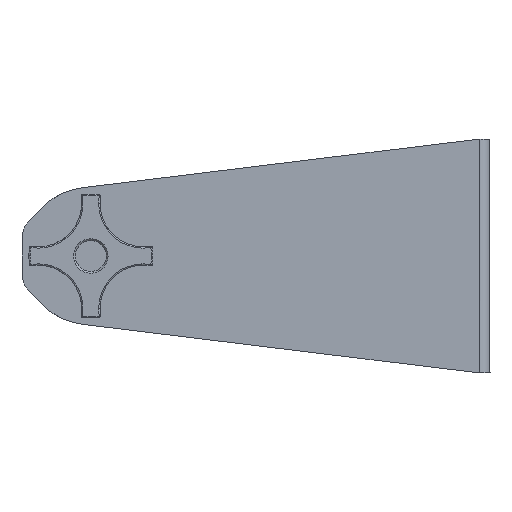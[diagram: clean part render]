
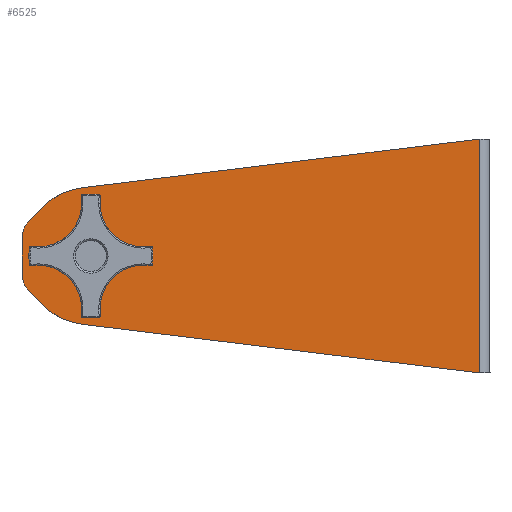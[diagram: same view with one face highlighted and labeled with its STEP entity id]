
A CAD part, left-side view. The second image highlights one B-rep face of the part: STEP entity #6525.
In plain terms, the highlighted planar face has unit normal (-1, 0, 0).
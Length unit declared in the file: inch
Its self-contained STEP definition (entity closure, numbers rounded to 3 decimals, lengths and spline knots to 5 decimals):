
#47 = VECTOR ( 'NONE', #1103, 39.37008 ) ;
#107 = AXIS2_PLACEMENT_3D ( 'NONE', #8453, #3495, #3270 ) ;
#119 = ORIENTED_EDGE ( 'NONE', *, *, #2059, .F. ) ;
#295 = DIRECTION ( 'NONE',  ( 1., 0., 0. ) ) ;
#310 = CARTESIAN_POINT ( 'NONE',  ( -10.875, 0.196, 2.12402 ) ) ;
#338 = VERTEX_POINT ( 'NONE', #3378 ) ;
#541 = EDGE_CURVE ( 'NONE', #1523, #9267, #5431, .T. ) ;
#583 = CARTESIAN_POINT ( 'NONE',  ( -10.875, 8.13521, 0.88255 ) ) ;
#696 = VERTEX_POINT ( 'NONE', #8216 ) ;
#704 = ORIENTED_EDGE ( 'NONE', *, *, #6803, .F. ) ;
#907 = LINE ( 'NONE', #3299, #3286 ) ;
#988 = CIRCLE ( 'NONE', #9332, 0.5 ) ;
#1027 = AXIS2_PLACEMENT_3D ( 'NONE', #1418, #8823, #5524 ) ;
#1103 = DIRECTION ( 'NONE',  ( 0., 0., 1. ) ) ;
#1382 = EDGE_CURVE ( 'NONE', #696, #5650, #2198, .T. ) ;
#1386 = CARTESIAN_POINT ( 'NONE',  ( -10.875, 8.35408, 0.66302 ) ) ;
#1418 = CARTESIAN_POINT ( 'NONE',  ( -10.875, 7.25, 0. ) ) ;
#1451 = ORIENTED_EDGE ( 'NONE', *, *, #10365, .F. ) ;
#1523 = VERTEX_POINT ( 'NONE', #9722 ) ;
#1607 = DIRECTION ( 'NONE',  ( 1., 0., 0. ) ) ;
#1620 = ORIENTED_EDGE ( 'NONE', *, *, #10405, .F. ) ;
#1994 = ORIENTED_EDGE ( 'NONE', *, *, #4037, .F. ) ;
#2012 = DIRECTION ( 'NONE',  ( 0., -1., 0. ) ) ;
#2015 = VERTEX_POINT ( 'NONE', #583 ) ;
#2038 = EDGE_CURVE ( 'NONE', #1523, #4041, #10212, .T. ) ;
#2059 = EDGE_CURVE ( 'NONE', #4026, #10580, #907, .T. ) ;
#2131 = CARTESIAN_POINT ( 'NONE',  ( -10.875, 8.35408, -0.66302 ) ) ;
#2198 = CIRCLE ( 'NONE', #10950, 0.1955 ) ;
#2687 = CARTESIAN_POINT ( 'NONE',  ( -10.875, 7.25, 0. ) ) ;
#2813 = DIRECTION ( 'NONE',  ( 1., 0., 0. ) ) ;
#2880 = ORIENTED_EDGE ( 'NONE', *, *, #8012, .F. ) ;
#2903 = LINE ( 'NONE', #8808, #4737 ) ;
#3063 = CIRCLE ( 'NONE', #4479, 1.25 ) ;
#3077 = FACE_OUTER_BOUND ( 'NONE', #5315, .T. ) ;
#3251 = EDGE_LOOP ( 'NONE', ( #7095, #10082 ) ) ;
#3270 = DIRECTION ( 'NONE',  ( 0., -1., 0. ) ) ;
#3286 = VECTOR ( 'NONE', #8525, 39.37008 ) ;
#3299 = CARTESIAN_POINT ( 'NONE',  ( -10.875, 8.5, 0.31 ) ) ;
#3378 = CARTESIAN_POINT ( 'NONE',  ( -10.875, 8.35408, -0.66302 ) ) ;
#3399 = ORIENTED_EDGE ( 'NONE', *, *, #541, .T. ) ;
#3495 = DIRECTION ( 'NONE',  ( 1., 0., 0. ) ) ;
#3592 = VERTEX_POINT ( 'NONE', #9376 ) ;
#3645 = EDGE_CURVE ( 'NONE', #5650, #696, #6282, .T. ) ;
#3685 = VERTEX_POINT ( 'NONE', #10330 ) ;
#3777 = CARTESIAN_POINT ( 'NONE',  ( -10.875, 8.5, 0.31 ) ) ;
#4026 = VERTEX_POINT ( 'NONE', #7394 ) ;
#4037 = EDGE_CURVE ( 'NONE', #10653, #2015, #9013, .T. ) ;
#4041 = VERTEX_POINT ( 'NONE', #4710 ) ;
#4379 = CARTESIAN_POINT ( 'NONE',  ( -10.875, 0.196, 0. ) ) ;
#4479 = AXIS2_PLACEMENT_3D ( 'NONE', #8452, #1607, #10134 ) ;
#4598 = ORIENTED_EDGE ( 'NONE', *, *, #2038, .F. ) ;
#4706 = ORIENTED_EDGE ( 'NONE', *, *, #5169, .F. ) ;
#4710 = CARTESIAN_POINT ( 'NONE',  ( -10.875, 7.40208, -1.24071 ) ) ;
#4737 = VECTOR ( 'NONE', #5630, 39.37008 ) ;
#5053 = CARTESIAN_POINT ( 'NONE',  ( -10.875, 7.25, 0. ) ) ;
#5112 = DIRECTION ( 'NONE',  ( 1., 0., 0. ) ) ;
#5169 = EDGE_CURVE ( 'NONE', #2015, #3685, #10614, .T. ) ;
#5315 = EDGE_LOOP ( 'NONE', ( #4598, #3399, #704, #4706, #1994, #1620, #119, #9544, #1451, #2880 ) ) ;
#5431 = LINE ( 'NONE', #4379, #47 ) ;
#5524 = DIRECTION ( 'NONE',  ( 0., 1., 0. ) ) ;
#5630 = DIRECTION ( 'NONE',  ( 0., -0.993, 0.122 ) ) ;
#5638 = CARTESIAN_POINT ( 'NONE',  ( -10.875, 8., 0.31 ) ) ;
#5643 = PLANE ( 'NONE',  #1027 ) ;
#5650 = VERTEX_POINT ( 'NONE', #6287 ) ;
#6204 = DIRECTION ( 'NONE',  ( 0., -1., 0. ) ) ;
#6282 = CIRCLE ( 'NONE', #7715, 0.1955 ) ;
#6287 = CARTESIAN_POINT ( 'NONE',  ( -10.875, 7.0545, 0. ) ) ;
#6325 = DIRECTION ( 'NONE',  ( 0., -0.706, 0.708 ) ) ;
#6334 = CARTESIAN_POINT ( 'NONE',  ( -10.875, 8.35408, 0.66302 ) ) ;
#6464 = DIRECTION ( 'NONE',  ( 1., 0., 0. ) ) ;
#6525 = ADVANCED_FACE ( 'NONE', ( #9883, #3077 ), #5643, .T. ) ;
#6803 = EDGE_CURVE ( 'NONE', #3685, #9267, #2903, .T. ) ;
#7082 = LINE ( 'NONE', #2131, #9154 ) ;
#7095 = ORIENTED_EDGE ( 'NONE', *, *, #1382, .T. ) ;
#7255 = DIRECTION ( 'NONE',  ( 0., 0.706, 0.708 ) ) ;
#7394 = CARTESIAN_POINT ( 'NONE',  ( -10.875, 8.5, -0.31 ) ) ;
#7628 = DIRECTION ( 'NONE',  ( 0., -1., 0. ) ) ;
#7640 = DIRECTION ( 'NONE',  ( 0., 0.993, 0.122 ) ) ;
#7715 = AXIS2_PLACEMENT_3D ( 'NONE', #2687, #295, #2012 ) ;
#7876 = CARTESIAN_POINT ( 'NONE',  ( -10.875, 8., -0.31 ) ) ;
#7927 = DIRECTION ( 'NONE',  ( 0., -1., 0. ) ) ;
#8012 = EDGE_CURVE ( 'NONE', #4041, #3592, #3063, .T. ) ;
#8216 = CARTESIAN_POINT ( 'NONE',  ( -10.875, 7.4455, 0. ) ) ;
#8452 = CARTESIAN_POINT ( 'NONE',  ( -10.875, 7.25, 0. ) ) ;
#8453 = CARTESIAN_POINT ( 'NONE',  ( -10.875, 7.25, 0. ) ) ;
#8525 = DIRECTION ( 'NONE',  ( 0., 0., 1. ) ) ;
#8793 = VECTOR ( 'NONE', #7640, 39.37008 ) ;
#8808 = CARTESIAN_POINT ( 'NONE',  ( -10.875, 0.188, 2.125 ) ) ;
#8823 = DIRECTION ( 'NONE',  ( -1., 0., 0. ) ) ;
#9013 = LINE ( 'NONE', #1386, #10587 ) ;
#9154 = VECTOR ( 'NONE', #7255, 39.37008 ) ;
#9247 = EDGE_CURVE ( 'NONE', #338, #4026, #9981, .T. ) ;
#9254 = CARTESIAN_POINT ( 'NONE',  ( -10.875, 0.188, -2.125 ) ) ;
#9267 = VERTEX_POINT ( 'NONE', #310 ) ;
#9332 = AXIS2_PLACEMENT_3D ( 'NONE', #5638, #6464, #7927 ) ;
#9376 = CARTESIAN_POINT ( 'NONE',  ( -10.875, 8.13521, -0.88255 ) ) ;
#9544 = ORIENTED_EDGE ( 'NONE', *, *, #9247, .F. ) ;
#9722 = CARTESIAN_POINT ( 'NONE',  ( -10.875, 0.196, -2.12402 ) ) ;
#9883 = FACE_BOUND ( 'NONE', #3251, .T. ) ;
#9981 = CIRCLE ( 'NONE', #10343, 0.5 ) ;
#10082 = ORIENTED_EDGE ( 'NONE', *, *, #3645, .T. ) ;
#10134 = DIRECTION ( 'NONE',  ( 0., -1., 0. ) ) ;
#10212 = LINE ( 'NONE', #9254, #8793 ) ;
#10330 = CARTESIAN_POINT ( 'NONE',  ( -10.875, 7.40208, 1.24071 ) ) ;
#10343 = AXIS2_PLACEMENT_3D ( 'NONE', #7876, #2813, #6204 ) ;
#10365 = EDGE_CURVE ( 'NONE', #3592, #338, #7082, .T. ) ;
#10405 = EDGE_CURVE ( 'NONE', #10580, #10653, #988, .T. ) ;
#10580 = VERTEX_POINT ( 'NONE', #3777 ) ;
#10587 = VECTOR ( 'NONE', #6325, 39.37008 ) ;
#10614 = CIRCLE ( 'NONE', #107, 1.25 ) ;
#10653 = VERTEX_POINT ( 'NONE', #6334 ) ;
#10950 = AXIS2_PLACEMENT_3D ( 'NONE', #5053, #5112, #7628 ) ;
